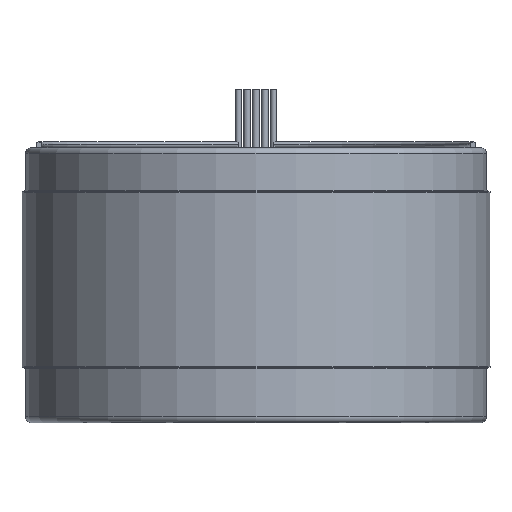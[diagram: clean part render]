
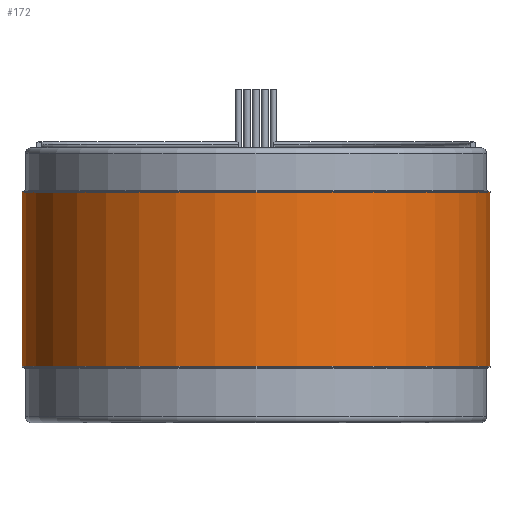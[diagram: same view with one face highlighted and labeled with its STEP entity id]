
A CAD part, front view. The second image highlights one B-rep face of the part: STEP entity #172.
In plain terms, the highlighted cylindrical face has radius 101.6 mm (diameter 203.2 mm), a partial arc.
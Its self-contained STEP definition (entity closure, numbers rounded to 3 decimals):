
#59 = LINE ( 'NONE', #2447, #607 ) ;
#172 = ADVANCED_FACE ( 'NONE', ( #214 ), #2549, .T. ) ;
#214 = FACE_OUTER_BOUND ( 'NONE', #1246, .T. ) ;
#332 = CARTESIAN_POINT ( 'NONE',  ( -101.6, 0., 37.744 ) ) ;
#533 = CARTESIAN_POINT ( 'NONE',  ( -101.6, 0., 37.744 ) ) ;
#607 = VECTOR ( 'NONE', #2985, 1000. ) ;
#743 = DIRECTION ( 'NONE',  ( 0., 0., 1. ) ) ;
#783 = CARTESIAN_POINT ( 'NONE',  ( 0., 0., -37.744 ) ) ;
#828 = CARTESIAN_POINT ( 'NONE',  ( 101.6, 0., -37.744 ) ) ;
#879 = VERTEX_POINT ( 'NONE', #533 ) ;
#886 = EDGE_CURVE ( 'NONE', #879, #2393, #2563, .T. ) ;
#980 = VERTEX_POINT ( 'NONE', #1895 ) ;
#1231 = DIRECTION ( 'NONE',  ( 1., 0., 0. ) ) ;
#1246 = EDGE_LOOP ( 'NONE', ( #2279, #2070, #1478, #2316 ) ) ;
#1250 = EDGE_CURVE ( 'NONE', #2393, #2533, #2313, .T. ) ;
#1310 = CARTESIAN_POINT ( 'NONE',  ( -101.6, 0., -37.744 ) ) ;
#1478 = ORIENTED_EDGE ( 'NONE', *, *, #886, .T. ) ;
#1895 = CARTESIAN_POINT ( 'NONE',  ( 101.6, 0., 37.744 ) ) ;
#2070 = ORIENTED_EDGE ( 'NONE', *, *, #2129, .F. ) ;
#2087 = DIRECTION ( 'NONE',  ( 0., 0., -1. ) ) ;
#2129 = EDGE_CURVE ( 'NONE', #879, #980, #3375, .T. ) ;
#2191 = DIRECTION ( 'NONE',  ( 0., 0., -1. ) ) ;
#2279 = ORIENTED_EDGE ( 'NONE', *, *, #3029, .F. ) ;
#2313 = CIRCLE ( 'NONE', #2652, 101.6 ) ;
#2316 = ORIENTED_EDGE ( 'NONE', *, *, #1250, .T. ) ;
#2332 = CARTESIAN_POINT ( 'NONE',  ( 0., 0., 37.744 ) ) ;
#2393 = VERTEX_POINT ( 'NONE', #1310 ) ;
#2447 = CARTESIAN_POINT ( 'NONE',  ( 101.6, 0., 37.744 ) ) ;
#2533 = VERTEX_POINT ( 'NONE', #828 ) ;
#2549 = CYLINDRICAL_SURFACE ( 'NONE', #2560, 101.6 ) ;
#2560 = AXIS2_PLACEMENT_3D ( 'NONE', #2616, #2087, #3152 ) ;
#2563 = LINE ( 'NONE', #332, #2806 ) ;
#2616 = CARTESIAN_POINT ( 'NONE',  ( 0., 0., 37.744 ) ) ;
#2652 = AXIS2_PLACEMENT_3D ( 'NONE', #783, #3170, #3433 ) ;
#2806 = VECTOR ( 'NONE', #2191, 1000. ) ;
#2985 = DIRECTION ( 'NONE',  ( 0., 0., -1. ) ) ;
#3029 = EDGE_CURVE ( 'NONE', #980, #2533, #59, .T. ) ;
#3152 = DIRECTION ( 'NONE',  ( -1., 0., 0. ) ) ;
#3170 = DIRECTION ( 'NONE',  ( 0., 0., 1. ) ) ;
#3375 = CIRCLE ( 'NONE', #3407, 101.6 ) ;
#3407 = AXIS2_PLACEMENT_3D ( 'NONE', #2332, #743, #1231 ) ;
#3433 = DIRECTION ( 'NONE',  ( 1., 0., 0. ) ) ;
